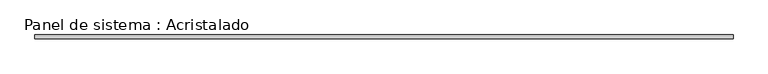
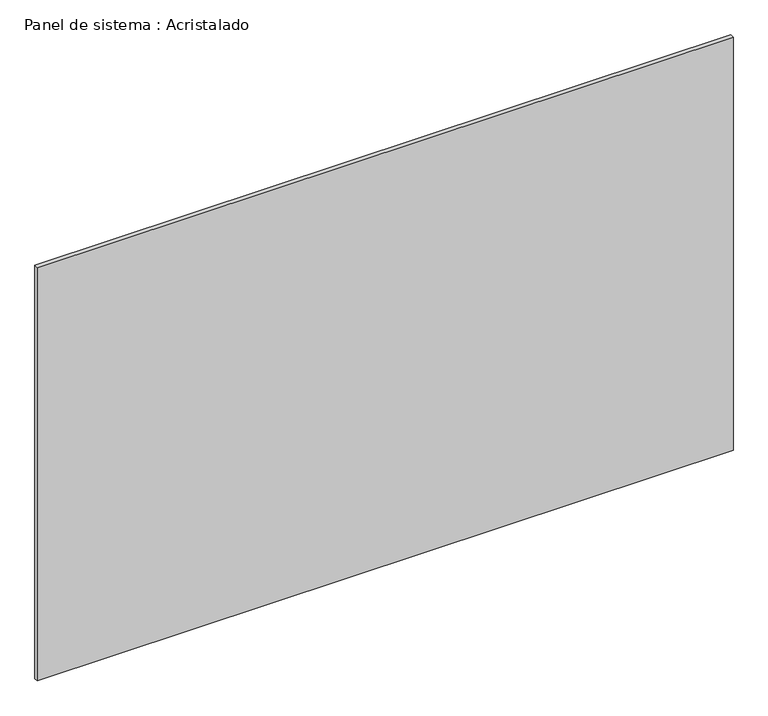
"""IFC4 building model written with IfcOpenShell, lengths in millimetres: plate geometry, Panel de sistema : Acristalado."""

from ifc_helpers import new_model, si_unit, origin, origin_with_axes, place, context, project, spatial, polyline, outline, extrude, source, transform, mapped, element, save


def panel_de_sistema_acristalado_9fb1359a(model_context):
    return source(origin(), model_context, "Body", "SweptSolid", [
        extrude(outline(polyline([(1752.5, -10.0), (-1752.5, -10.0), (-1752.5, 10.0), (1752.5, 10.0), (1752.5, -10.0)])), origin_with_axes(), (0.0, 0.0, 1.0), 2200.0),
    ])


if __name__ == "__main__":
    model = new_model("IFC4")
    model_context = context("Model", 3, world=origin())
    ifc_project = project(units=[si_unit("LENGTHUNIT", "METRE", prefix="MILLI")], contexts=[model_context])
    site = spatial("IfcSite", under=ifc_project)
    building = spatial("IfcBuilding", under=site)
    placement = place(None, origin())
    panel_de_sistema_acristalado_shape = panel_de_sistema_acristalado_9fb1359a(model_context)
    element("IfcPlate", 1, ObjectType="Panel de sistema : Acristalado", at=placement, inside=building, context=model_context, shape_type="MappedRepresentation", body=[
        mapped(panel_de_sistema_acristalado_shape, transform((0.0, 0.0, 0.0), x_axis=(1.0, 0.0, 0.0), y_axis=(0.0, 1.0, 0.0), z_axis=(0.0, 0.0, 1.0))),
    ])
    save(model, "model.ifc")
